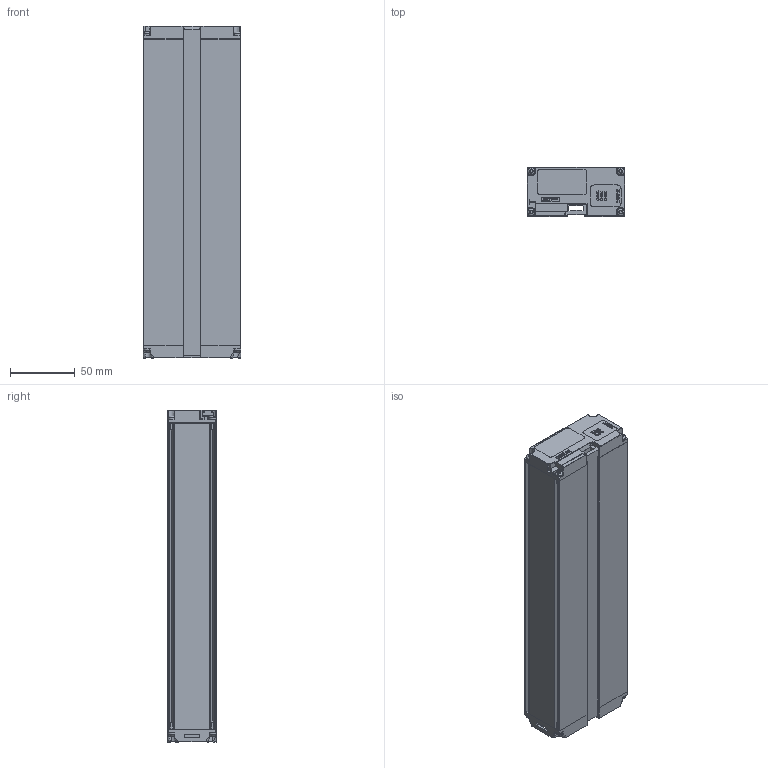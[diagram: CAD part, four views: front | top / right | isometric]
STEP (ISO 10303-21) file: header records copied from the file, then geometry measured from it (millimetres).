
FILE_DESCRIPTION (( 'STEP AP214' ), '1' );
FILE_NAME ('Z-103059_LIMAX1CP_1R-R.STEP', '2025-02-26T09:56:25', ( '' ), ( '' ), 'SwSTEP 2.0', 'SolidWorks 2024', '' );
FILE_SCHEMA (( 'AUTOMOTIVE_DESIGN' ));
Length unit declared in the file: millimetre
Products named in the file (3): Z-100775-1^Z-103059_defeature; Group1^Z-103059_defeature; Z-103059_LIMAX1CP_1R-R
Assembly tree (2 placements, depth 2):
  Z-103059_LIMAX1CP_1R-R
    Group1^Z-103059_defeature
    Z-100775-1^Z-103059_defeature
Bounding box: 75 x 37.5 x 256.05 mm (x, y, z)
Volume: 667069.3 mm3; surface area: 99867.5 mm2
Topology: 14 solids, 14 shells, 1643 faces, 4558 edges, 2956 vertices
Faces by surface type: plane 866, cylinder 502, bspline 142, cone 83, torus 40, sphere 10
Entity records: 76357 total; most frequent: CARTESIAN_POINT 17560, ORIENTED_EDGE 9050, DIRECTION 7749, EDGE_CURVE 4525, VERTEX_POINT 2956, VECTOR 2905, LINE 2905, AXIS2_PLACEMENT_3D 2422
